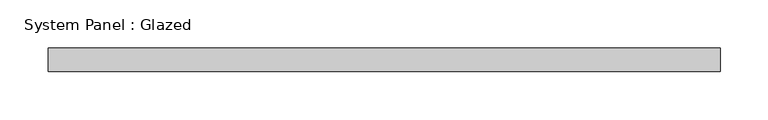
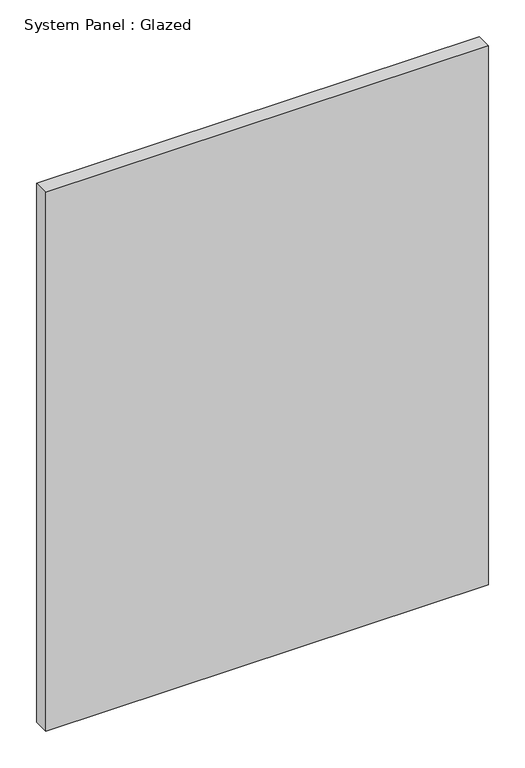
"""IFC4 building model written with IfcOpenShell, lengths in millimetres: plate geometry, System Panel : Glazed."""

from ifc_helpers import new_model, si_unit, origin, origin_with_axes, place, context, project, spatial, polyline, outline, extrude, source, transform, mapped, element, save


def system_panel_glazed_dfb5debe(model_context):
    return source(origin(), model_context, "Body", "SweptSolid", [
        extrude(outline(polyline([(350.0, -49.5), (-350.0, -49.5), (-350.0, -24.5), (350.0, -24.5), (350.0, -49.5)])), origin_with_axes(), (0.0, 0.0, 1.0), 900.0),
    ])


if __name__ == "__main__":
    model = new_model("IFC4")
    model_context = context("Model", 3, world=origin())
    ifc_project = project(units=[si_unit("LENGTHUNIT", "METRE", prefix="MILLI")], contexts=[model_context])
    site = spatial("IfcSite", under=ifc_project)
    building = spatial("IfcBuilding", under=site)
    placement = place(None, origin())
    system_panel_glazed_shape = system_panel_glazed_dfb5debe(model_context)
    element("IfcPlate", 1, ObjectType="System Panel : Glazed", at=placement, inside=building, context=model_context, shape_type="MappedRepresentation", body=[
        mapped(system_panel_glazed_shape, transform((0.0, 0.0, 0.0), x_axis=(1.0, 0.0, 0.0), y_axis=(0.0, 1.0, 0.0), z_axis=(0.0, 0.0, 1.0))),
    ])
    save(model, "model.ifc")
